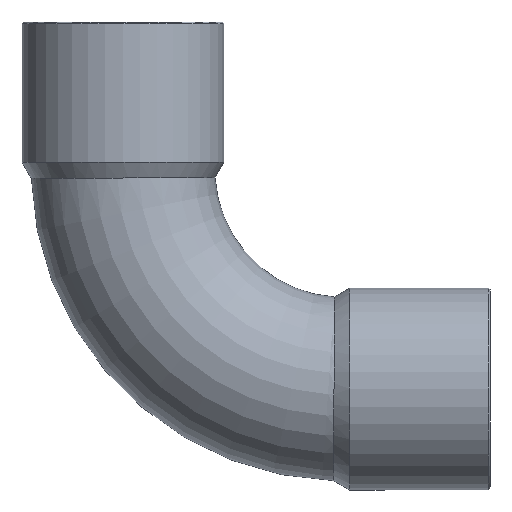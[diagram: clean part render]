
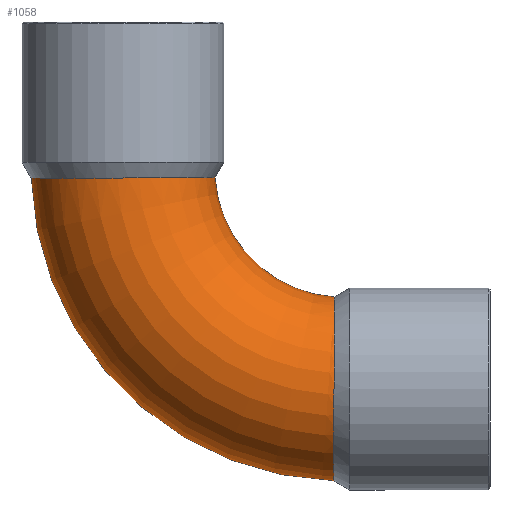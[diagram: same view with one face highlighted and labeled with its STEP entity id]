
A CAD part, front view. The second image highlights one B-rep face of the part: STEP entity #1058.
In plain terms, the highlighted toroidal (fillet/blend) face has major radius 14.4 mm and minor radius 6 mm.
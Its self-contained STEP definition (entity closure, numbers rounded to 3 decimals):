
#49=CARTESIAN_POINT('',(1.644,0.,-0.616));
#50=VERTEX_POINT('',#49);
#51=CARTESIAN_POINT('',(21.419,0.,-20.391));
#52=VERTEX_POINT('',#51);
#53=CARTESIAN_POINT('',(22.035,0.,0.0));
#54=DIRECTION('',(0.0,-1.0,0.0));
#55=DIRECTION('',(0.0,0.0,-1.0));
#56=AXIS2_PLACEMENT_3D('',#53,#54,#55);
#57=CIRCLE('',#56,20.4);
#58=EDGE_CURVE('',#50,#52,#57,.T.);
#60=CARTESIAN_POINT('',(13.654,0.,-0.567));
#61=VERTEX_POINT('',#60);
#85=CARTESIAN_POINT('',(21.468,0.,-8.381));
#86=VERTEX_POINT('',#85);
#87=CARTESIAN_POINT('',(22.035,0.,0.0));
#88=DIRECTION('',(0.0,1.0,0.0));
#89=DIRECTION('',(0.0,0.0,-1.0));
#90=AXIS2_PLACEMENT_3D('',#87,#88,#89);
#91=CIRCLE('',#90,8.4);
#92=EDGE_CURVE('',#86,#61,#91,.T.);
#224=CARTESIAN_POINT('',(13.654,0.,-0.567));
#225=CARTESIAN_POINT('',(13.654,-0.052,-0.567));
#226=CARTESIAN_POINT('',(13.654,-0.104,-0.567));
#227=CARTESIAN_POINT('',(13.632,-0.936,-0.567));
#228=CARTESIAN_POINT('',(13.459,-1.705,-0.569));
#229=CARTESIAN_POINT('',(12.828,-3.135,-0.573));
#230=CARTESIAN_POINT('',(12.375,-3.782,-0.577));
#231=CARTESIAN_POINT('',(11.247,-4.866,-0.584));
#232=CARTESIAN_POINT('',(10.582,-5.293,-0.587));
#233=CARTESIAN_POINT('',(9.127,-5.867,-0.594));
#234=CARTESIAN_POINT('',(8.35,-6.01,-0.597));
#235=CARTESIAN_POINT('',(6.785,-5.989,-0.603));
#236=CARTESIAN_POINT('',(6.013,-5.826,-0.605));
#237=CARTESIAN_POINT('',(4.575,-5.213,-0.609));
#238=CARTESIAN_POINT('',(3.922,-4.77,-0.611));
#239=CARTESIAN_POINT('',(2.825,-3.658,-0.614));
#240=CARTESIAN_POINT('',(2.39,-3.,-0.615));
#241=CARTESIAN_POINT('',(1.797,-1.555,-0.616));
#242=CARTESIAN_POINT('',(1.644,-0.781,-0.616));
#243=CARTESIAN_POINT('',(1.644,0.,-0.616));
#244=B_SPLINE_CURVE_WITH_KNOTS('',3,(#224,#225,#226,#227,#228,#229,#230,#231,#232,#233,#234,#235,#236,#237,#238,#239,#240,#241,#242,#243),.UNSPECIFIED.,.F.,.U.,(4,2,2,2,2,2,2,2,2,4),(-1.892,-1.876,-1.642,-1.407,-1.172,-0.938,-0.703,-0.469,-0.234,0.0),.UNSPECIFIED.);
#245=EDGE_CURVE('',#61,#50,#244,.T.);
#1025=CARTESIAN_POINT('',(22.035,0.,0.0));
#1026=DIRECTION('',(0.0,-1.0,0.0));
#1027=DIRECTION('',(0.0,0.0,-1.0));
#1028=AXIS2_PLACEMENT_3D('',#1025,#1026,#1027);
#1029=TOROIDAL_SURFACE('',#1028,14.4,6.);
#1030=ORIENTED_EDGE('',*,*,#58,.T.);
#1031=CARTESIAN_POINT('',(21.419,0.,-20.391));
#1032=CARTESIAN_POINT('',(21.419,-0.442,-20.391));
#1033=CARTESIAN_POINT('',(21.419,-0.883,-20.342));
#1034=CARTESIAN_POINT('',(21.419,-1.746,-20.148));
#1035=CARTESIAN_POINT('',(21.42,-2.166,-20.004));
#1036=CARTESIAN_POINT('',(21.421,-3.272,-19.48));
#1037=CARTESIAN_POINT('',(21.422,-3.906,-19.011));
#1038=CARTESIAN_POINT('',(21.425,-4.959,-17.856));
#1039=CARTESIAN_POINT('',(21.426,-5.368,-17.181));
#1040=CARTESIAN_POINT('',(21.431,-5.904,-15.712));
#1041=CARTESIAN_POINT('',(21.433,-6.026,-14.931));
#1042=CARTESIAN_POINT('',(21.439,-5.964,-13.367));
#1043=CARTESIAN_POINT('',(21.442,-5.781,-12.599));
#1044=CARTESIAN_POINT('',(21.449,-5.13,-11.176));
#1045=CARTESIAN_POINT('',(21.453,-4.669,-10.535));
#1046=CARTESIAN_POINT('',(21.46,-3.528,-9.467));
#1047=CARTESIAN_POINT('',(21.463,-2.859,-9.049));
#1048=CARTESIAN_POINT('',(21.467,-1.449,-8.513));
#1049=CARTESIAN_POINT('',(21.468,-0.727,-8.381));
#1050=CARTESIAN_POINT('',(21.468,0.,-8.381));
#1051=B_SPLINE_CURVE_WITH_KNOTS('',3,(#1031,#1032,#1033,#1034,#1035,#1036,#1037,#1038,#1039,#1040,#1041,#1042,#1043,#1044,#1045,#1046,#1047,#1048,#1049,#1050),.UNSPECIFIED.,.F.,.U.,(4,2,2,2,2,2,2,2,2,4),(-3.783,-3.65,-3.517,-3.283,-3.048,-2.814,-2.579,-2.344,-2.11,-1.892),.UNSPECIFIED.);
#1052=EDGE_CURVE('',#52,#86,#1051,.T.);
#1053=ORIENTED_EDGE('',*,*,#1052,.T.);
#1054=ORIENTED_EDGE('',*,*,#92,.T.);
#1055=ORIENTED_EDGE('',*,*,#245,.T.);
#1056=EDGE_LOOP('',(#1030,#1053,#1054,#1055));
#1057=FACE_OUTER_BOUND('',#1056,.T.);
#1058=ADVANCED_FACE('',(#1057),#1029,.T.);
